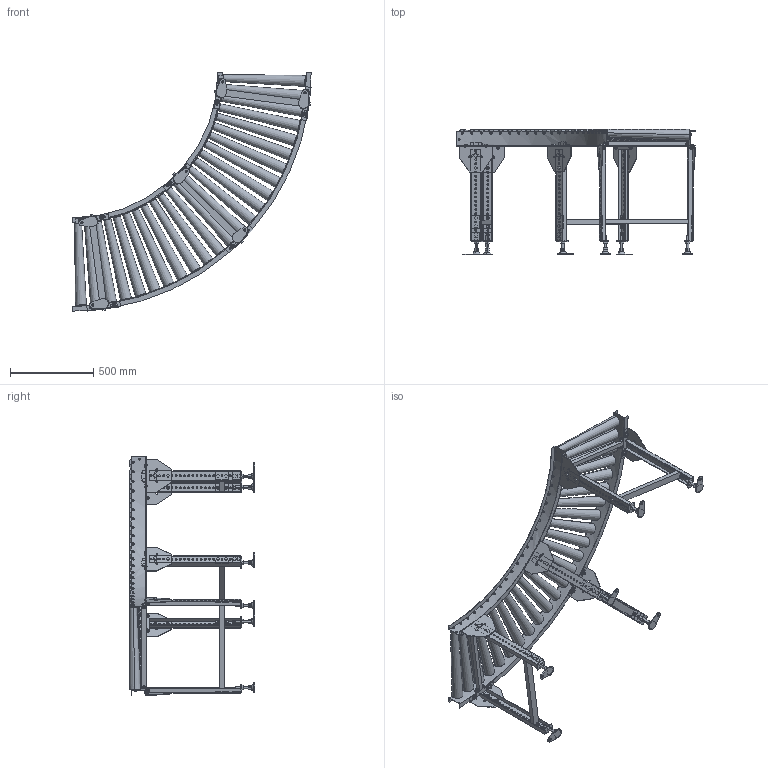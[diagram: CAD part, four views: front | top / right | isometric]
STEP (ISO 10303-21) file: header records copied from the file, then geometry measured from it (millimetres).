
FILE_DESCRIPTION (( 'STEP AP214' ), '1' );
FILE_NAME ('JRT-C9-500-75-90.STEP', '2022-09-28T23:33:36', ( '' ), ( '' ), 'SwSTEP 2.0', 'SolidWorks 2017', '' );
FILE_SCHEMA (( 'AUTOMOTIVE_DESIGN' ));
Length unit declared in the file: millimetre
Products named in the file (1): JRT-C9-500-75-90
Bounding box: 1430 x 750 x 1430 mm (x, y, z)
Volume: 34058012.8 mm3; surface area: 4834515.7 mm2
Topology: 28 solids, 58 shells, 3330 faces, 7956 edges, 5016 vertices
Faces by surface type: plane 2330, cylinder 940, cone 60
Entity records: 142292 total; most frequent: CARTESIAN_POINT 25934, DIRECTION 16946, ORIENTED_EDGE 15912, EDGE_CURVE 7956, AXIS2_PLACEMENT_3D 5945, VECTOR 5056, LINE 5056, VERTEX_POINT 5016
